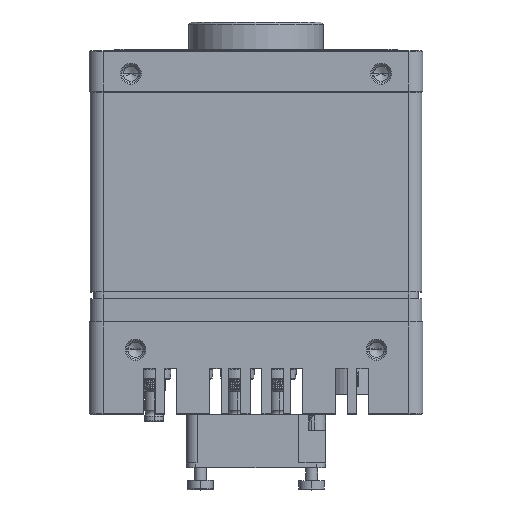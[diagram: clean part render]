
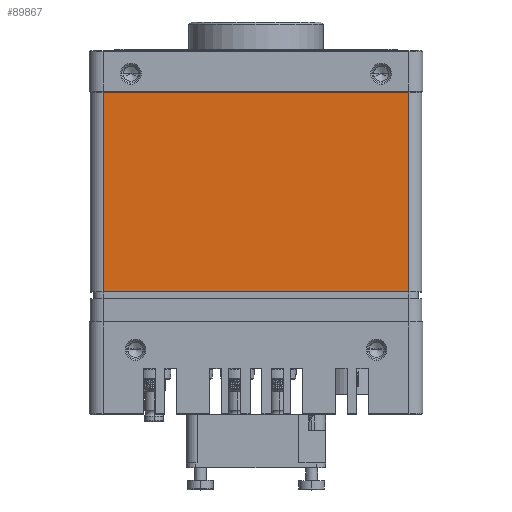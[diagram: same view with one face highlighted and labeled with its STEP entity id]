
A CAD part, top view. The second image highlights one B-rep face of the part: STEP entity #89867.
In plain terms, the highlighted planar face has unit normal (0, 0, 1).
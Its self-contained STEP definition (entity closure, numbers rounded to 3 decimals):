
#11438=DIRECTION('',(1.,0.,0.));
#11439=VECTOR('',#11438,66.);
#11440=CARTESIAN_POINT('',(-33.,-55.1,35.8));
#11441=LINE('',#11440,#11439);
#12347=DIRECTION('',(0.,-1.,0.));
#12348=VECTOR('',#12347,43.1);
#12349=CARTESIAN_POINT('',(-33.,-12.,35.8));
#12350=LINE('',#12349,#12348);
#13325=DIRECTION('',(0.,1.,0.));
#13326=VECTOR('',#13325,43.1);
#13327=CARTESIAN_POINT('',(33.,-55.1,35.8));
#13328=LINE('',#13327,#13326);
#13355=DIRECTION('',(-1.,0.,0.));
#13356=VECTOR('',#13355,66.);
#13357=CARTESIAN_POINT('',(33.,-12.,35.8));
#13358=LINE('',#13357,#13356);
#73585=CARTESIAN_POINT('',(-33.,-55.1,35.8));
#73586=VERTEX_POINT('',#73585);
#73587=CARTESIAN_POINT('',(33.,-55.1,35.8));
#73588=VERTEX_POINT('',#73587);
#73761=CARTESIAN_POINT('',(-33.,-12.,35.8));
#73762=VERTEX_POINT('',#73761);
#73763=CARTESIAN_POINT('',(33.,-12.,35.8));
#73764=VERTEX_POINT('',#73763);
#89856=CARTESIAN_POINT('',(33.,-10.,35.8));
#89857=DIRECTION('',(0.,0.,-1.));
#89858=DIRECTION('',(-1.,0.,0.));
#89859=AXIS2_PLACEMENT_3D('',#89856,#89857,#89858);
#89860=PLANE('',#89859);
#89861=ORIENTED_EDGE('',*,*,#89847,.F.);
#89862=ORIENTED_EDGE('',*,*,#89822,.F.);
#89863=ORIENTED_EDGE('',*,*,#88288,.F.);
#89864=ORIENTED_EDGE('',*,*,#89007,.F.);
#89865=EDGE_LOOP('',(#89861,#89862,#89863,#89864));
#89866=FACE_OUTER_BOUND('',#89865,.F.);
#89867=ADVANCED_FACE('',(#89866),#89860,.F.);
#88288=EDGE_CURVE('',#73586,#73588,#11441,.T.);
#89007=EDGE_CURVE('',#73762,#73586,#12350,.T.);
#89822=EDGE_CURVE('',#73588,#73764,#13328,.T.);
#89847=EDGE_CURVE('',#73764,#73762,#13358,.T.);
